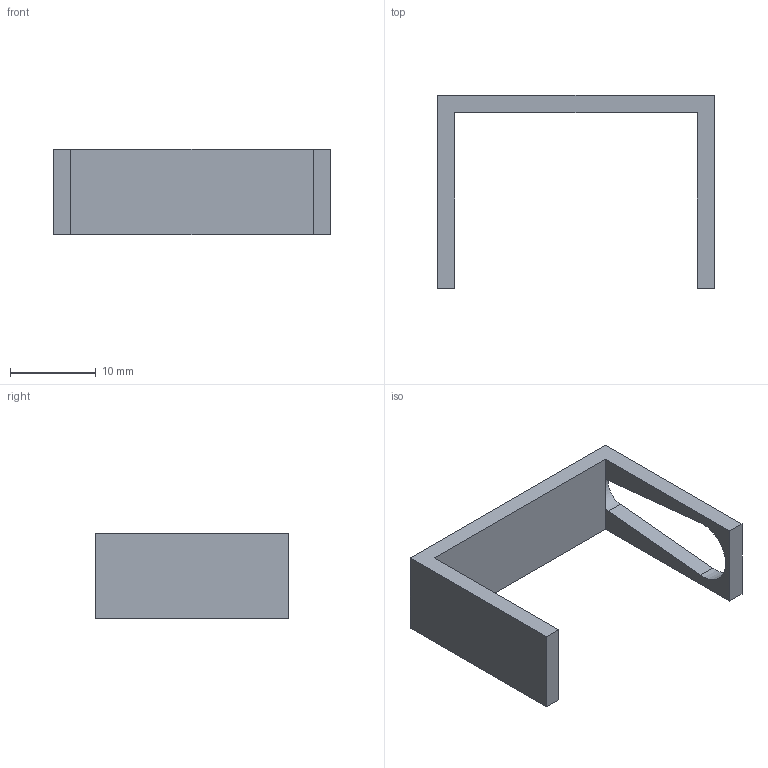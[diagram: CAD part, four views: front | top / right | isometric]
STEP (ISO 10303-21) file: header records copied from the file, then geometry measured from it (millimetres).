
FILE_DESCRIPTION(/* description */ ('STEP AP242 Edition 2','CAx-IF Rec.Pracs.---Representation and Presentation of Product Manufacturing Information (PMI)---4.0---2014-10-13','CAx-IF Rec.Pracs.---3D Tessellated Geometry---0.4---2014-09-14','2;1','CAx-IF Rec.Pracs.---User Defined Attributes---1.5---2016-08-15'),/* implementation_level */ '2;1');
FILE_NAME(/* name */ 'Assembly 1 - Part 1 (35)',/* time_stamp */ '2026-06-04T16:20:00Z',/* author */ (''),/* organization */ (''),/* preprocessor_version */ 'ST-DEVELOPER v20',/* originating_system */ 'ONSHAPE BY PTC INC, 1.215',/* authorisation */ ' ');
FILE_SCHEMA (('AP242_MANAGED_MODEL_BASED_3D_ENGINEERING_MIM_LF { 1 0 10303 442 3 1 4 }'));
Length unit declared in the file: metre
Products named in the file (1): Part 1
Bounding box: 32.2 x 22.5 x 10 mm (x, y, z)
Volume: 1220.6 mm3; surface area: 1662.3 mm2
Topology: 1 solids, 1 shells, 15 faces, 40 edges, 26 vertices
Faces by surface type: plane 13, cylinder 2
Entity records: 490 total; most frequent: CARTESIAN_POINT 82, ORIENTED_EDGE 80, DIRECTION 78, EDGE_CURVE 40, LINE 34, VECTOR 34, VERTEX_POINT 26, AXIS2_PLACEMENT_3D 22
